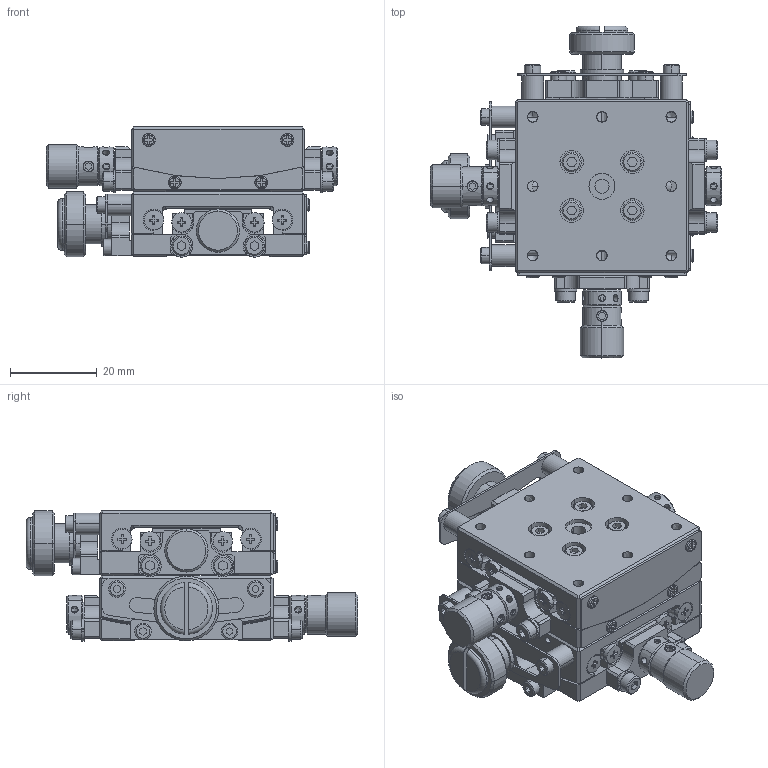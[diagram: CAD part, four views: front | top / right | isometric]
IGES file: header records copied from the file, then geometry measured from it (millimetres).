
Global section: file name: No Iges File Name specified; native system: AutoDesk Inventor R12.0; preprocessor: AutoDesk Inventor Iges Exporter R12.0; author: No Author specified; organization: No Organization specified; date: 20090610.152014; units: millimetre
Bounding box: 67.2 x 76.6 x 30.03 mm (x, y, z)
Volume: 48715.6 mm3; surface area: 36148.5 mm2
Topology: 122 solids, 142 shells, 2942 faces, 7321 edges, 4541 vertices
Faces by surface type: plane 1323, bspline 657, cylinder 392, cone 236, revolution 226, sphere 88, torus 20
